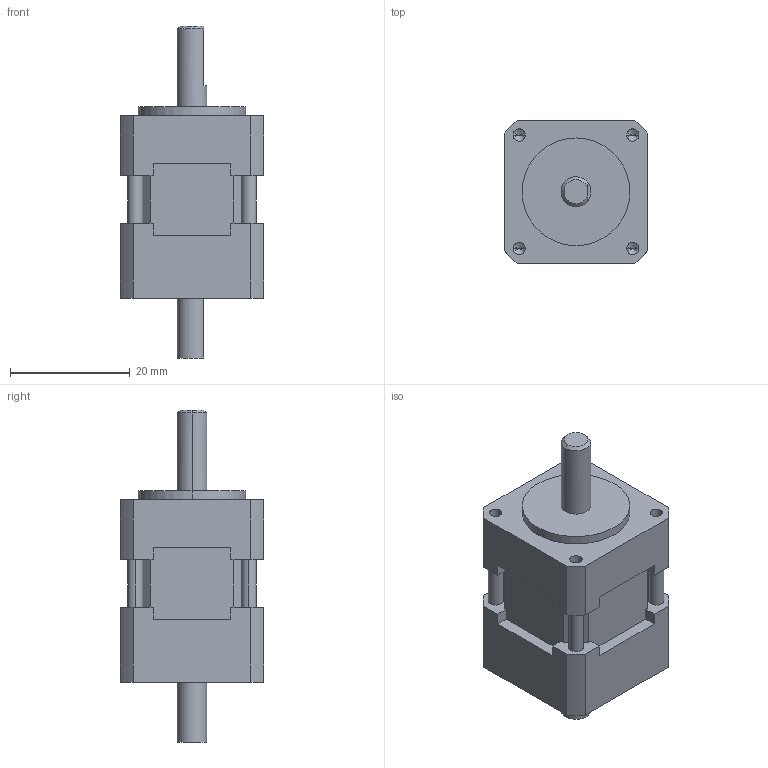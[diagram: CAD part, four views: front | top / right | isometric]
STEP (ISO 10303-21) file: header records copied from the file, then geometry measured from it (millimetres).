
FILE_DESCRIPTION (( 'STEP AP214' ), '1' );
FILE_NAME ('TS3664N11E2.STEP', '2016-09-09T06:41:49', ( 'hoho' ), ( '' ), 'SwSTEP 2.0', 'SolidWorks 2013', '' );
FILE_SCHEMA (( 'AUTOMOTIVE_DESIGN' ));
Length unit declared in the file: millimetre
Products named in the file (1): TS3664N11E2
Bounding box: 24 x 24 x 55.5 mm (x, y, z)
Volume: 16323.4 mm3; surface area: 4955.8 mm2
Topology: 1 solids, 1 shells, 95 faces, 260 edges, 166 vertices
Faces by surface type: plane 56, cylinder 29, cone 10
Entity records: 3174 total; most frequent: CARTESIAN_POINT 526, ORIENTED_EDGE 504, DIRECTION 504, EDGE_CURVE 252, LINE 188, VECTOR 188, VERTEX_POINT 166, AXIS2_PLACEMENT_3D 158
